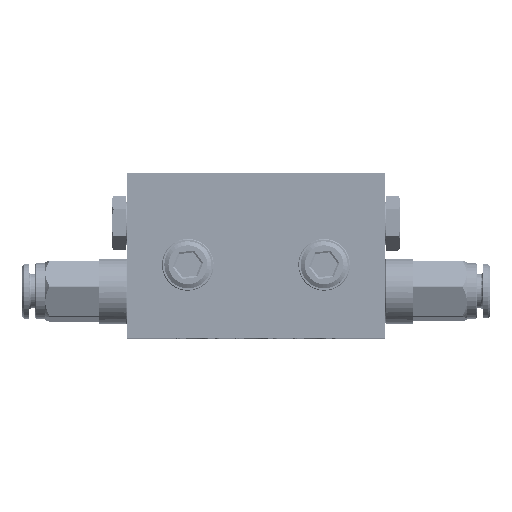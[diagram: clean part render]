
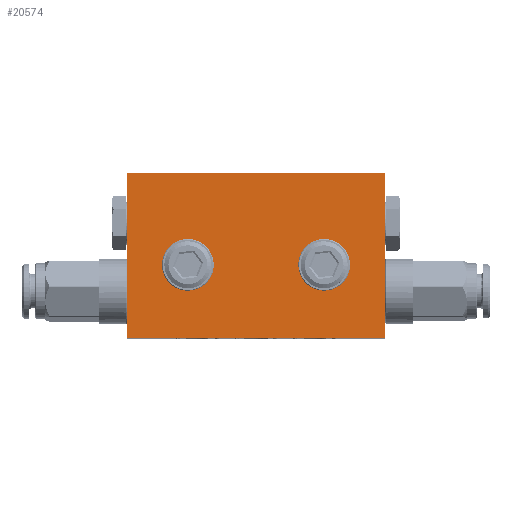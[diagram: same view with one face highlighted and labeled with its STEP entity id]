
A CAD part, top view. The second image highlights one B-rep face of the part: STEP entity #20574.
In plain terms, the highlighted planar face has unit normal (0, 0, 1) as drawn and (0, 0, -1) by its records, which use the part's own axes.
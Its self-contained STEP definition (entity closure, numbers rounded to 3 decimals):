
#464 = CARTESIAN_POINT ( 'NONE',  ( 0., 0., -4.85 ) ) ;
#1042 = EDGE_LOOP ( 'NONE', ( #34325 ) ) ;
#1914 = FACE_OUTER_BOUND ( 'NONE', #21275, .T. ) ;
#2099 = CARTESIAN_POINT ( 'NONE',  ( 27.5, 0., -4.85 ) ) ;
#2883 = CARTESIAN_POINT ( 'NONE',  ( -14.5, -15.5, -4.85 ) ) ;
#3317 = CARTESIAN_POINT ( 'NONE',  ( 11.4, -15.5, -4.85 ) ) ;
#3587 = VERTEX_POINT ( 'NONE', #9754 ) ;
#4107 = VERTEX_POINT ( 'NONE', #34208 ) ;
#6954 = VERTEX_POINT ( 'NONE', #34986 ) ;
#7798 = ORIENTED_EDGE ( 'NONE', *, *, #42060, .F. ) ;
#9754 = CARTESIAN_POINT ( 'NONE',  ( -27.5, -35., -4.85 ) ) ;
#11510 = AXIS2_PLACEMENT_3D ( 'NONE', #2883, #39406, #35474 ) ;
#12993 = AXIS2_PLACEMENT_3D ( 'NONE', #31474, #46422, #27797 ) ;
#13811 = DIRECTION ( 'NONE',  ( -1., 0., 0. ) ) ;
#15496 = EDGE_CURVE ( 'NONE', #4107, #28924, #46732, .T. ) ;
#15639 = EDGE_LOOP ( 'NONE', ( #31276 ) ) ;
#15785 = ORIENTED_EDGE ( 'NONE', *, *, #15496, .F. ) ;
#17721 = CARTESIAN_POINT ( 'NONE',  ( -11.4, -15.5, -4.85 ) ) ;
#18087 = ORIENTED_EDGE ( 'NONE', *, *, #19499, .F. ) ;
#19499 = EDGE_CURVE ( 'NONE', #3587, #4107, #22261, .T. ) ;
#20574 = ADVANCED_FACE ( 'NONE', ( #35475, #35970, #1914 ), #33781, .F. ) ;
#21275 = EDGE_LOOP ( 'NONE', ( #18087, #26354, #7798, #15785 ) ) ;
#22261 = LINE ( 'NONE', #33304, #38322 ) ;
#24879 = VERTEX_POINT ( 'NONE', #3317 ) ;
#25553 = VECTOR ( 'NONE', #43058, 1000. ) ;
#26354 = ORIENTED_EDGE ( 'NONE', *, *, #42556, .F. ) ;
#27092 = EDGE_CURVE ( 'NONE', #24879, #24879, #45895, .T. ) ;
#27797 = DIRECTION ( 'NONE',  ( -1., 0., 0. ) ) ;
#28924 = VERTEX_POINT ( 'NONE', #2099 ) ;
#29713 = LINE ( 'NONE', #40022, #47354 ) ;
#29852 = DIRECTION ( 'NONE',  ( 0., 0., 1. ) ) ;
#31276 = ORIENTED_EDGE ( 'NONE', *, *, #27092, .F. ) ;
#31474 = CARTESIAN_POINT ( 'NONE',  ( 14.5, -15.5, -4.85 ) ) ;
#32203 = CARTESIAN_POINT ( 'NONE',  ( -27.5, 0., -4.85 ) ) ;
#33304 = CARTESIAN_POINT ( 'NONE',  ( 0., -35., -4.85 ) ) ;
#33553 = DIRECTION ( 'NONE',  ( 1., 0., 0. ) ) ;
#33781 = PLANE ( 'NONE',  #34509 ) ;
#34208 = CARTESIAN_POINT ( 'NONE',  ( 27.5, -35., -4.85 ) ) ;
#34325 = ORIENTED_EDGE ( 'NONE', *, *, #43437, .F. ) ;
#34509 = AXIS2_PLACEMENT_3D ( 'NONE', #464, #29852, #44807 ) ;
#34986 = CARTESIAN_POINT ( 'NONE',  ( -27.5, 0., -4.85 ) ) ;
#35474 = DIRECTION ( 'NONE',  ( 1., 0., 0. ) ) ;
#35475 = FACE_BOUND ( 'NONE', #1042, .T. ) ;
#35970 = FACE_BOUND ( 'NONE', #15639, .T. ) ;
#38322 = VECTOR ( 'NONE', #33553, 1000. ) ;
#38818 = VECTOR ( 'NONE', #40544, 1000. ) ;
#39406 = DIRECTION ( 'NONE',  ( 0., 0., -1. ) ) ;
#40022 = CARTESIAN_POINT ( 'NONE',  ( 0., 0., -4.85 ) ) ;
#40544 = DIRECTION ( 'NONE',  ( 0., -1., 0. ) ) ;
#42060 = EDGE_CURVE ( 'NONE', #28924, #6954, #29713, .T. ) ;
#42556 = EDGE_CURVE ( 'NONE', #6954, #3587, #47887, .T. ) ;
#43058 = DIRECTION ( 'NONE',  ( 0., 1., 0. ) ) ;
#43437 = EDGE_CURVE ( 'NONE', #47602, #47602, #46690, .T. ) ;
#44807 = DIRECTION ( 'NONE',  ( 1., 0., 0. ) ) ;
#45895 = CIRCLE ( 'NONE', #12993, 3.1 ) ;
#46248 = CARTESIAN_POINT ( 'NONE',  ( 27.5, 0., -4.85 ) ) ;
#46422 = DIRECTION ( 'NONE',  ( 0., 0., -1. ) ) ;
#46690 = CIRCLE ( 'NONE', #11510, 3.1 ) ;
#46732 = LINE ( 'NONE', #46248, #25553 ) ;
#47354 = VECTOR ( 'NONE', #13811, 1000. ) ;
#47602 = VERTEX_POINT ( 'NONE', #17721 ) ;
#47887 = LINE ( 'NONE', #32203, #38818 ) ;
